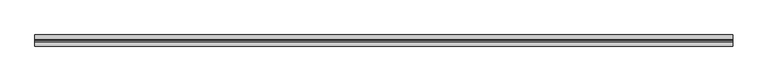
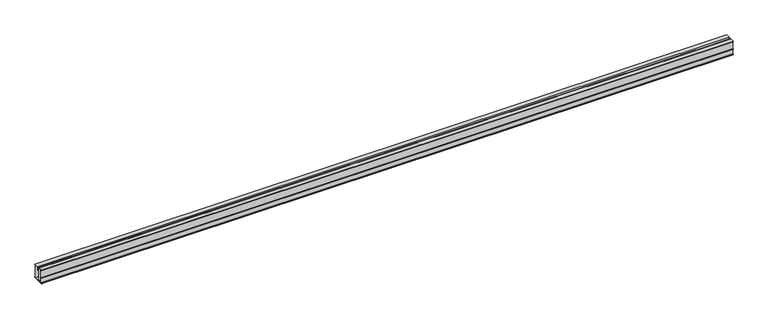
"""IFC4 building model written with IfcOpenShell, lengths in millimetres: proxy geometry, Legar LD5039ALU : Legar LD5039ALU."""

from ifc_helpers import new_model, si_unit, point, frame, frame_2d, origin, place, context, project, spatial, polyline, circle_curve, trimmed, segment, composite_curve, outline, extrude, source, transform, mapped, element, save


def generic_models_c380d8c5(model_context):
    return source(origin(), model_context, "Body", "SweptSolid", [
        extrude(outline(composite_curve([segment(polyline([(-18.441317, 40.1088688), (-17.6447159, 40.90547), (-18.4678704, 41.7286245), (-17.6380775, 42.5584174), (-18.4678704, 43.3882103), (-17.6911843, 44.1648964), (-18.4612321, 44.9349442), (-17.6048858, 45.7912905), (-18.6802974, 46.8667021), (-15.5469995, 50.0), (0.0, 50.0), (0.0, 48.5130112), (-2.0578864, 48.5130112), (-2.0578864, 21.3090813), (-0.9028147, 21.3090813), (-0.9028147, 20.260223), (-2.0578864, 20.260223), (-2.0578864, 1.5932023), (0.0265534, 1.5932023), (0.0265534, 0.8098779)]), True, "CONTINUOUS"), segment(trimmed(circle_curve(frame_2d((-0.9163794, 0.953749)), 0.9538454), [point((0.0265534, 0.8098779))], [point((-0.9028147, 0.0))], False, "CARTESIAN"), True, "CONTINUOUS"), segment(polyline([(-0.9028147, 0.0), (-38.4158258, 0.0)]), True, "CONTINUOUS"), segment(trimmed(circle_curve(frame_2d((-38.2944084, 0.6683312)), 0.6792708), [point((-38.4158258, 0.0))], [point((-38.9734466, 0.6505576))], False, "CARTESIAN"), True, "CONTINUOUS"), segment(polyline([(-38.9734466, 0.6505576), (-38.9734466, 1.5268189), (-37.0483271, 1.5268189), (-37.0483271, 20.3398832), (-38.4423792, 20.3398832), (-38.4423792, 21.4020181), (-37.0483271, 21.4020181), (-37.0483271, 48.5262878), (-38.9734466, 48.5262878), (-38.9734466, 50.0398301), (-23.5793946, 50.0398301), (-20.8045672, 47.3313861), (-21.4212441, 46.6995945), (-20.5962163, 45.8943042), (-21.3601958, 45.1115997), (-20.5301582, 44.3014194), (-21.3195719, 43.4926573), (-20.529678, 42.7216603), (-21.3657053, 41.8651422), (-20.5895721, 41.1075767), (-21.4519862, 40.224025), (-20.6428337, 39.4342302), (-21.500545, 38.5554965), (-18.5608072, 38.5554965), (-17.724376, 39.3919278), (-18.441317, 40.1088688)]), True, "CONTINUOUS")], self_intersect=False), holes=[polyline([(-22.5172597, 1.5002655), (-22.5172597, 46.5572857), (-24.5986524, 48.5395645), (-35.5480616, 48.5395645), (-35.5480616, 1.5002655), (-22.5172597, 1.5002655)]), polyline([(-21.0169942, 1.5002655), (-3.5581519, 1.5002655), (-3.5581519, 48.4997345), (-14.5645247, 48.4997345), (-16.5161976, 46.6409984), (-16.5161976, 37.5066383), (-21.0169942, 37.5066383), (-21.0169942, 1.5002655)])]), frame((0.0, 0.0, 0.0), z_axis=(1.0, 0.0, 0.0), x_axis=(0.0, 1.0, 0.0)), (0.0, 0.0, 1.0), 2445.9268063),
    ])


if __name__ == "__main__":
    model = new_model("IFC4")
    model_context = context("Model", 3, world=origin())
    ifc_project = project(units=[si_unit("LENGTHUNIT", "METRE", prefix="MILLI")], contexts=[model_context])
    site = spatial("IfcSite", under=ifc_project)
    building = spatial("IfcBuilding", under=site)
    placement = place(None, origin())
    generic_models_shape = generic_models_c380d8c5(model_context)
    element("IfcBuildingElementProxy", 1, Name="Legar LD5039ALU : Legar LD5039ALU", ObjectType="Legar LD5039ALU : Legar LD5039ALU", at=placement, inside=building, context=model_context, shape_type="MappedRepresentation", body=[
        mapped(generic_models_shape, transform((0.0, 0.0, 0.0), x_axis=(1.0, 0.0, 0.0), y_axis=(0.0, 1.0, 0.0), z_axis=(0.0, 0.0, 1.0))),
    ])
    save(model, "model.ifc")
